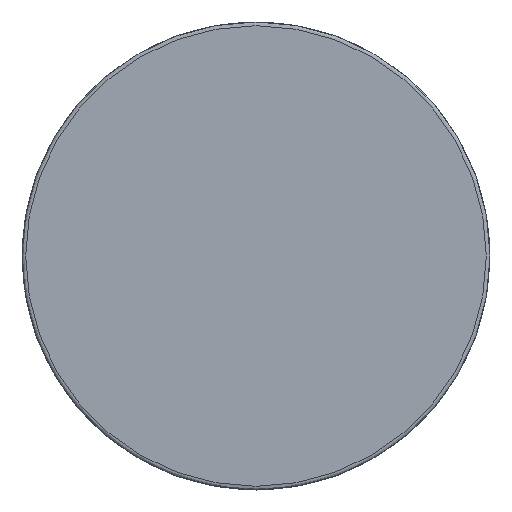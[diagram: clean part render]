
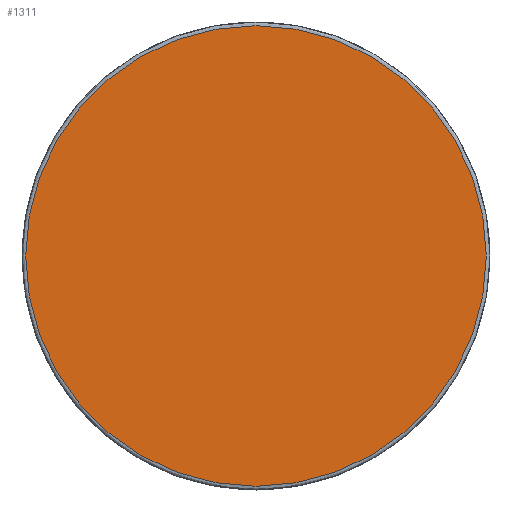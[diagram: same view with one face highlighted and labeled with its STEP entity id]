
A CAD part, front view. The second image highlights one B-rep face of the part: STEP entity #1311.
In plain terms, the highlighted planar face has unit normal (0, -1, 0).
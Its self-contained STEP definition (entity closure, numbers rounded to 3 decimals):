
#1286=CARTESIAN_POINT('',(1334.555,967.027,-37.8));
#1287=DIRECTION('',(0.0,-1.0,0.0));
#1288=DIRECTION('',(0.0,0.0,1.0));
#1289=AXIS2_PLACEMENT_3D('',#1286,#1287,#1288);
#1290=PLANE('',#1289);
#1291=CARTESIAN_POINT('',(1296.755,967.027,31.));
#1292=VERTEX_POINT('',#1291);
#1293=CARTESIAN_POINT('',(1296.755,967.027,-31.));
#1294=VERTEX_POINT('',#1293);
#1295=CARTESIAN_POINT('',(1296.755,967.027,0.));
#1296=DIRECTION('',(0.0,-1.0,0.0));
#1297=DIRECTION('',(0.0,0.0,1.0));
#1298=AXIS2_PLACEMENT_3D('',#1295,#1296,#1297);
#1299=CIRCLE('',#1298,31.0);
#1300=EDGE_CURVE('',#1292,#1294,#1299,.T.);
#1301=ORIENTED_EDGE('',*,*,#1300,.T.);
#1302=CARTESIAN_POINT('',(1296.755,967.027,0.));
#1303=DIRECTION('',(0.0,-1.0,0.0));
#1304=DIRECTION('',(0.0,0.0,1.0));
#1305=AXIS2_PLACEMENT_3D('',#1302,#1303,#1304);
#1306=CIRCLE('',#1305,31.0);
#1307=EDGE_CURVE('',#1294,#1292,#1306,.T.);
#1308=ORIENTED_EDGE('',*,*,#1307,.T.);
#1309=EDGE_LOOP('',(#1301,#1308));
#1310=FACE_OUTER_BOUND('',#1309,.T.);
#1311=ADVANCED_FACE('',(#1310),#1290,.T.);
